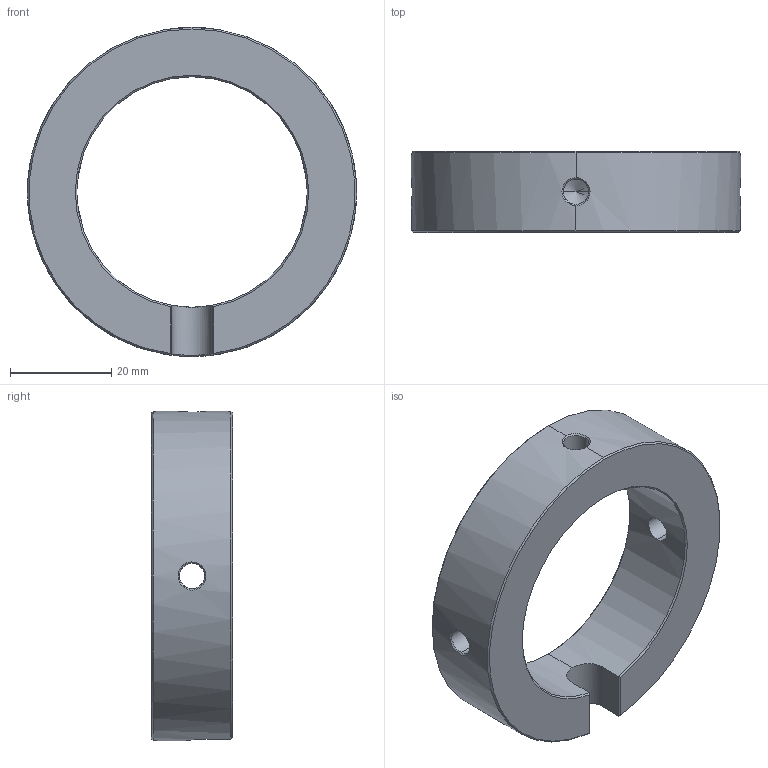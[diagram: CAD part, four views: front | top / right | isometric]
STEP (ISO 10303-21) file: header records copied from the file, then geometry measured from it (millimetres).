
FILE_DESCRIPTION (( 'STEP AP214' ), '1' );
FILE_NAME ('萇雄毀扞噩標撿.STEP', '2026-09-08T08:56:35', ( '' ), ( '' ), 'SwSTEP 2.0', 'SolidWorks 2024', '' );
FILE_SCHEMA (( 'AUTOMOTIVE_DESIGN' ));
Length unit declared in the file: millimetre
Products named in the file (1): 电动反射镜夹具
Bounding box: 65 x 16 x 65 mm (x, y, z)
Volume: 25855.9 mm3; surface area: 9173.7 mm2
Topology: 1 solids, 1 shells, 37 faces, 93 edges, 55 vertices
Faces by surface type: cylinder 11, plane 10, cone 9, bspline 7
Entity records: 5805 total; most frequent: CARTESIAN_POINT 4989, ORIENTED_EDGE 182, DIRECTION 130, EDGE_CURVE 91, VERTEX_POINT 55, AXIS2_PLACEMENT_3D 48, EDGE_LOOP 42, B_SPLINE_CURVE_WITH_KNOTS 40
